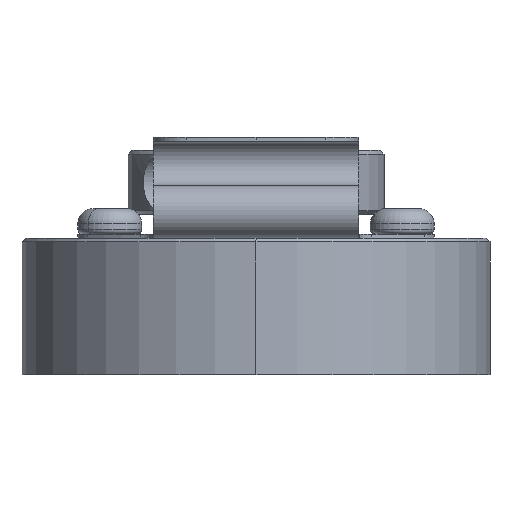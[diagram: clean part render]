
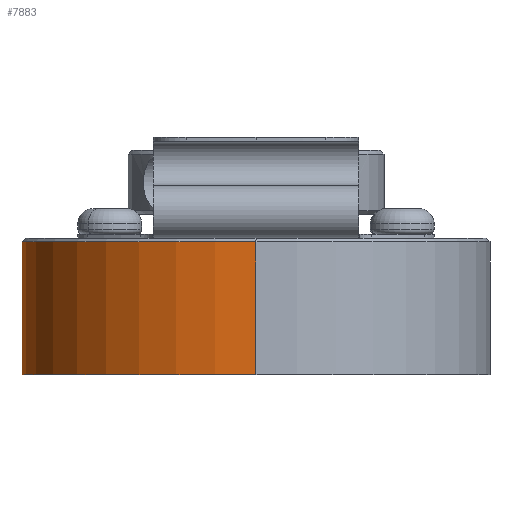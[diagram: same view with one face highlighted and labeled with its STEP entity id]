
A CAD part, left-side view. The second image highlights one B-rep face of the part: STEP entity #7883.
In plain terms, the highlighted cylindrical face has radius 18.25 mm (diameter 36.5 mm), a partial arc.
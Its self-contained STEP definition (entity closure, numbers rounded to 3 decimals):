
#510 = CARTESIAN_POINT ( 'NONE',  ( 0., 0., 1.3 ) ) ;
#557 = EDGE_CURVE ( 'NONE', #16748, #17577, #10326, .T. ) ;
#1109 = ORIENTED_EDGE ( 'NONE', *, *, #6053, .F. ) ;
#3267 = CIRCLE ( 'NONE', #18688, 18.25 ) ;
#3533 = DIRECTION ( 'NONE',  ( 0., 0., 1. ) ) ;
#3540 = ORIENTED_EDGE ( 'NONE', *, *, #10347, .T. ) ;
#3577 = FACE_OUTER_BOUND ( 'NONE', #7867, .T. ) ;
#4028 = CARTESIAN_POINT ( 'NONE',  ( 0., 0., 11.65 ) ) ;
#4726 = VECTOR ( 'NONE', #15847, 1000. ) ;
#5219 = DIRECTION ( 'NONE',  ( 1., 0., 0. ) ) ;
#6053 = EDGE_CURVE ( 'NONE', #16748, #13995, #8942, .T. ) ;
#6088 = CARTESIAN_POINT ( 'NONE',  ( 0., 0., 1000. ) ) ;
#6347 = AXIS2_PLACEMENT_3D ( 'NONE', #6088, #15798, #17255 ) ;
#7490 = AXIS2_PLACEMENT_3D ( 'NONE', #510, #3533, #5219 ) ;
#7867 = EDGE_LOOP ( 'NONE', ( #16618, #15294, #3540, #1109 ) ) ;
#7883 = ADVANCED_FACE ( 'NONE', ( #3577 ), #12574, .T. ) ;
#8352 = CARTESIAN_POINT ( 'NONE',  ( 18.25, 0., 11.65 ) ) ;
#8942 = LINE ( 'NONE', #9482, #4726 ) ;
#9482 = CARTESIAN_POINT ( 'NONE',  ( 18.25, 0., 1000. ) ) ;
#10326 = CIRCLE ( 'NONE', #7490, 18.25 ) ;
#10347 = EDGE_CURVE ( 'NONE', #16261, #13995, #3267, .T. ) ;
#11641 = CARTESIAN_POINT ( 'NONE',  ( -18.25, 0., 1.3 ) ) ;
#12236 = DIRECTION ( 'NONE',  ( 0., 0., 1. ) ) ;
#12574 = CYLINDRICAL_SURFACE ( 'NONE', #6347, 18.25 ) ;
#13735 = EDGE_CURVE ( 'NONE', #17577, #16261, #14375, .T. ) ;
#13886 = DIRECTION ( 'NONE',  ( 0., 0., -1. ) ) ;
#13995 = VERTEX_POINT ( 'NONE', #8352 ) ;
#14375 = LINE ( 'NONE', #20179, #14631 ) ;
#14631 = VECTOR ( 'NONE', #12236, 1000. ) ;
#15294 = ORIENTED_EDGE ( 'NONE', *, *, #13735, .T. ) ;
#15798 = DIRECTION ( 'NONE',  ( 0., 0., 1. ) ) ;
#15847 = DIRECTION ( 'NONE',  ( 0., 0., 1. ) ) ;
#16261 = VERTEX_POINT ( 'NONE', #18495 ) ;
#16618 = ORIENTED_EDGE ( 'NONE', *, *, #557, .T. ) ;
#16748 = VERTEX_POINT ( 'NONE', #18546 ) ;
#17255 = DIRECTION ( 'NONE',  ( 1., 0., 0. ) ) ;
#17577 = VERTEX_POINT ( 'NONE', #11641 ) ;
#18495 = CARTESIAN_POINT ( 'NONE',  ( -18.25, 0., 11.65 ) ) ;
#18546 = CARTESIAN_POINT ( 'NONE',  ( 18.25, 0., 1.3 ) ) ;
#18688 = AXIS2_PLACEMENT_3D ( 'NONE', #4028, #13886, #19957 ) ;
#19957 = DIRECTION ( 'NONE',  ( 1., 0., 0. ) ) ;
#20179 = CARTESIAN_POINT ( 'NONE',  ( -18.25, 0., 1000. ) ) ;
